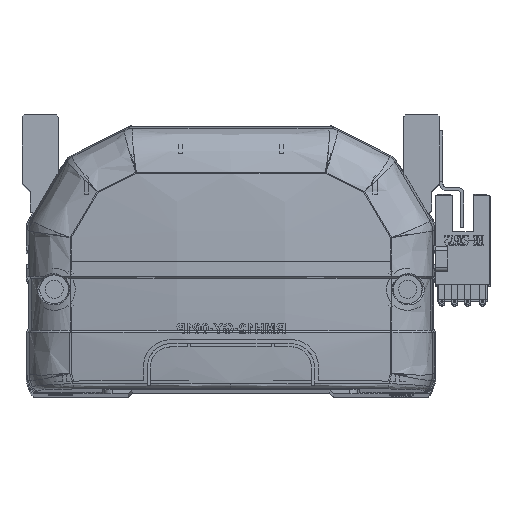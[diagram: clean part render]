
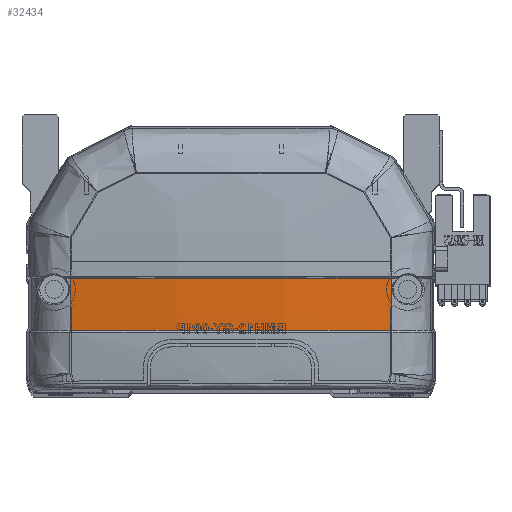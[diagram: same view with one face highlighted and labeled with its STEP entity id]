
A CAD part, top view. The second image highlights one B-rep face of the part: STEP entity #32434.
In plain terms, the highlighted free-form (B-spline) face has degree [3, 3] with [4, 4] control points.
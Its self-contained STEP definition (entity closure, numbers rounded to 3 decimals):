
#652 = CARTESIAN_POINT ( 'NONE',  ( -39.985, 15.83, -5.879 ) ) ;
#4101 = CARTESIAN_POINT ( 'NONE',  ( 13.598, 24.342, -10.47 ) ) ;
#4305 = CARTESIAN_POINT ( 'NONE',  ( 13.38, 15.83, -8.984 ) ) ;
#4666 = CARTESIAN_POINT ( 'NONE',  ( -13.598, 19.918, -10.302 ) ) ;
#6518 = CARTESIAN_POINT ( 'NONE',  ( -39.963, 28.706, -6.372 ) ) ;
#9266 = CARTESIAN_POINT ( 'NONE',  ( -40.461, 20.111, -6.066 ) ) ;
#9728 = EDGE_CURVE ( 'NONE', #20747, #48163, #38625, .T. ) ;
#10944 = B_SPLINE_CURVE_WITH_KNOTS ( 'NONE', 3,
 ( #39456, #52517, #4305, #39830, #17581, #21436, #30920, #52892, #53092, #44139 ),
 .UNSPECIFIED., .F., .F.,
 ( 4, 2, 2, 2, 4 ),
 ( 0., 0.04, 0.06, 0.07, 0.08 ),
 .UNSPECIFIED. ) ;
#11013 = CARTESIAN_POINT ( 'NONE',  ( -39.963, 28.706, -6.372 ) ) ;
#11195 = CARTESIAN_POINT ( 'NONE',  ( -13.373, 28.707, -9.468 ) ) ;
#12300 = CARTESIAN_POINT ( 'NONE',  ( 39.963, 28.706, -6.372 ) ) ;
#13505 = ORIENTED_EDGE ( 'NONE', *, *, #53421, .F. ) ;
#14499 = CARTESIAN_POINT ( 'NONE',  ( -39.963, 28.706, -6.372 ) ) ;
#15219 = CARTESIAN_POINT ( 'NONE',  ( -39.985, 15.83, -5.879 ) ) ;
#15634 = CARTESIAN_POINT ( 'NONE',  ( 13.375, 28.707, -9.468 ) ) ;
#17581 = CARTESIAN_POINT ( 'NONE',  ( -13.384, 15.83, -8.724 ) ) ;
#17745 = CARTESIAN_POINT ( 'NONE',  ( -13.598, 28.769, -10.535 ) ) ;
#20747 = VERTEX_POINT ( 'NONE', #41092 ) ;
#21374 = VERTEX_POINT ( 'NONE', #652 ) ;
#21436 = CARTESIAN_POINT ( 'NONE',  ( -23.389, 15.83, -7.947 ) ) ;
#21498 = VERTEX_POINT ( 'NONE', #6518 ) ;
#21764 = ORIENTED_EDGE ( 'NONE', *, *, #9728, .T. ) ;
#22147 = CARTESIAN_POINT ( 'NONE',  ( -40.461, 28.832, -6.296 ) ) ;
#24462 = CARTESIAN_POINT ( 'NONE',  ( 39.963, 28.706, -6.372 ) ) ;
#24613 = EDGE_CURVE ( 'NONE', #21498, #48163, #37420, .T. ) ;
#25276 = CARTESIAN_POINT ( 'NONE',  ( 40.461, 15.757, -5.8 ) ) ;
#25557 = CARTESIAN_POINT ( 'NONE',  ( 39.985, 15.83, -5.879 ) ) ;
#25666 = CARTESIAN_POINT ( 'NONE',  ( 13.598, 19.918, -10.302 ) ) ;
#26426 = CARTESIAN_POINT ( 'NONE',  ( -13.598, 15.499, -10.032 ) ) ;
#28834 = ORIENTED_EDGE ( 'NONE', *, *, #37706, .T. ) ;
#29742 = CARTESIAN_POINT ( 'NONE',  ( 13.598, 28.769, -10.535 ) ) ;
#29969 = FACE_OUTER_BOUND ( 'NONE', #52735, .T. ) ;
#30920 = CARTESIAN_POINT ( 'NONE',  ( -26.721, 15.83, -7.624 ) ) ;
#32434 = ADVANCED_FACE ( 'NONE', ( #29969 ), #37793, .F. ) ;
#34415 = CARTESIAN_POINT ( 'NONE',  ( 40.461, 24.47, -6.231 ) ) ;
#35542 = CARTESIAN_POINT ( 'NONE',  ( -40.461, 24.47, -6.231 ) ) ;
#35946 = CARTESIAN_POINT ( 'NONE',  ( -39.966, 24.412, -6.306 ) ) ;
#37420 = B_SPLINE_CURVE_WITH_KNOTS ( 'NONE', 3,
 ( #11013, #37647, #11195, #15634, #46591, #24462 ),
 .UNSPECIFIED., .F., .F.,
 ( 4, 2, 4 ),
 ( 0., 0.5, 1. ),
 .UNSPECIFIED. ) ;
#37647 = CARTESIAN_POINT ( 'NONE',  ( -26.748, 28.706, -8.432 ) ) ;
#37706 = EDGE_CURVE ( 'NONE', #21498, #21374, #39207, .T. ) ;
#37793 =( BOUNDED_SURFACE ( )  B_SPLINE_SURFACE ( 3, 3, ( 
 ( #25276, #52682, #34415, #57160 ),
 ( #56378, #25666, #4101, #29742 ),
 ( #26426, #4666, #53277, #17745 ),
 ( #48781, #9266, #35542, #22147 ) ),
 .UNSPECIFIED., .F., .F., .F. ) 
 B_SPLINE_SURFACE_WITH_KNOTS ( ( 4, 4 ),
 ( 4, 4 ),
 ( 0., 1. ),
 ( 0., 1. ),
 .UNSPECIFIED. ) 
 GEOMETRIC_REPRESENTATION_ITEM ( )  RATIONAL_B_SPLINE_SURFACE ( (
 ( 1., 1., 1., 1.),
 ( 0.992, 0.992, 0.992, 0.992),
 ( 0.992, 0.992, 0.992, 0.992),
 ( 1., 1., 1., 1.) ) ) 
 REPRESENTATION_ITEM ( '' )  SURFACE ( )  );
#38353 = CARTESIAN_POINT ( 'NONE',  ( 39.973, 20.12, -6.142 ) ) ;
#38625 = B_SPLINE_CURVE_WITH_KNOTS ( 'NONE', 3,
 ( #25557, #38353, #43422, #12300 ),
 .UNSPECIFIED., .F., .F.,
 ( 4, 4 ),
 ( 0., 1. ),
 .UNSPECIFIED. ) ;
#39207 = B_SPLINE_CURVE_WITH_KNOTS ( 'NONE', 3,
 ( #14499, #35946, #41713, #15219 ),
 .UNSPECIFIED., .F., .F.,
 ( 4, 4 ),
 ( 0., 1. ),
 .UNSPECIFIED. ) ;
#39456 = CARTESIAN_POINT ( 'NONE',  ( 39.985, 15.83, -5.879 ) ) ;
#39830 = CARTESIAN_POINT ( 'NONE',  ( -6.692, 15.83, -8.984 ) ) ;
#41092 = CARTESIAN_POINT ( 'NONE',  ( 39.985, 15.83, -5.879 ) ) ;
#41713 = CARTESIAN_POINT ( 'NONE',  ( -39.973, 20.118, -6.142 ) ) ;
#43422 = CARTESIAN_POINT ( 'NONE',  ( 39.966, 24.413, -6.306 ) ) ;
#44139 = CARTESIAN_POINT ( 'NONE',  ( -39.985, 15.83, -5.879 ) ) ;
#46591 = CARTESIAN_POINT ( 'NONE',  ( 26.749, 28.706, -8.432 ) ) ;
#48163 = VERTEX_POINT ( 'NONE', #50978 ) ;
#48781 = CARTESIAN_POINT ( 'NONE',  ( -40.461, 15.757, -5.8 ) ) ;
#50978 = CARTESIAN_POINT ( 'NONE',  ( 39.963, 28.706, -6.372 ) ) ;
#52517 = CARTESIAN_POINT ( 'NONE',  ( 26.761, 15.83, -7.945 ) ) ;
#52682 = CARTESIAN_POINT ( 'NONE',  ( 40.461, 20.111, -6.066 ) ) ;
#52735 = EDGE_LOOP ( 'NONE', ( #21764, #54694, #28834, #13505 ) ) ;
#52892 = CARTESIAN_POINT ( 'NONE',  ( -33.365, 15.83, -6.848 ) ) ;
#53092 = CARTESIAN_POINT ( 'NONE',  ( -36.679, 15.83, -6.395 ) ) ;
#53277 = CARTESIAN_POINT ( 'NONE',  ( -13.598, 24.342, -10.47 ) ) ;
#53421 = EDGE_CURVE ( 'NONE', #20747, #21374, #10944, .T. ) ;
#54694 = ORIENTED_EDGE ( 'NONE', *, *, #24613, .F. ) ;
#56378 = CARTESIAN_POINT ( 'NONE',  ( 13.598, 15.499, -10.032 ) ) ;
#57160 = CARTESIAN_POINT ( 'NONE',  ( 40.461, 28.832, -6.296 ) ) ;
